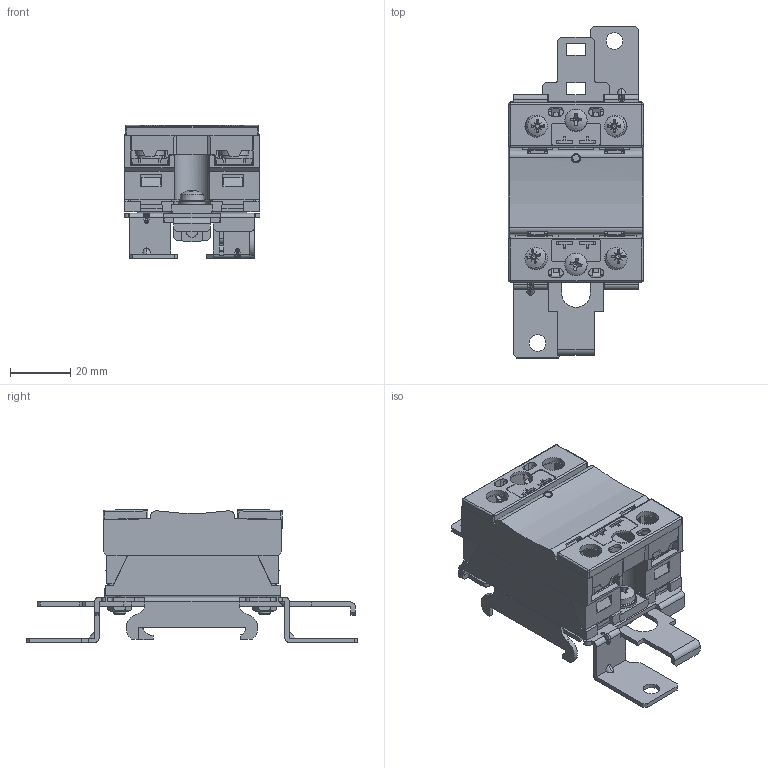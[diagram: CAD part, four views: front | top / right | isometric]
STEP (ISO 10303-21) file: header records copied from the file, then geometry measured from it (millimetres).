
FILE_DESCRIPTION(/* description */ (''),/* implementation_level */ '2;1');
FILE_NAME(/* name */ 'C:\Users\ysicot\Desktop\2D3D 689 A.stp',/* time_stamp */ '2023-10-19T10:58:40+02:00',/* author */ ('ysicot'),/* organization */ (''),/* preprocessor_version */ 'ST-DEVELOPER v17',/* originating_system */ 'Autodesk Inventor 2018',/* authorisation */ '');
FILE_SCHEMA (('CONFIG_CONTROL_DESIGN'));
Length unit declared in the file: millimetre
Products named in the file (10): SO887940-1LD12; SO8887940; 1LD12020; 1LD10770 nervuré; 1LD20780; ressort; 1L114800; DIN 7985 (Z) - M4x10-Z; 1; ISO 4032 - M4
Assembly tree (11 placements, depth 3):
  SO887940-1LD12
    SO8887940
    1LD12020
      1LD10770 nervuré
      1LD20780
      ressort
    1L114800  x2
      DIN 7985 (Z) - M4x10-Z
      1
    ISO 4032 - M4  x2
Bounding box: 45 x 110 x 44.09 mm (x, y, z)
Volume: 69411 mm3; surface area: 38897.8 mm2
Topology: 10 solids, 11 shells, 2149 faces, 6262 edges, 4072 vertices
Faces by surface type: plane 1225, cone 453, cylinder 392, bspline 43, torus 22, sphere 14
Full cylindrical faces by diameter (mm): 2.35 x1, 2.9 x1, 3 x1, 3.242 x2, 3.3 x2, 3.621 x2, 3.704 x2, 3.8 x2, 4 x10, 4.3 x6, 4.567 x2, 4.6 x2, 4.7 x1, 5 x2, 5.5 x2, 7.4 x4, 9 x2
Entity records: 68957 total; most frequent: CARTESIAN_POINT 16527, ORIENTED_EDGE 11156, DIRECTION 10358, EDGE_CURVE 5578, VERTEX_POINT 3605, LINE 3520, VECTOR 3520, AXIS2_PLACEMENT_3D 3419
